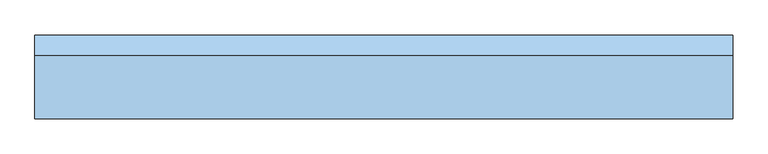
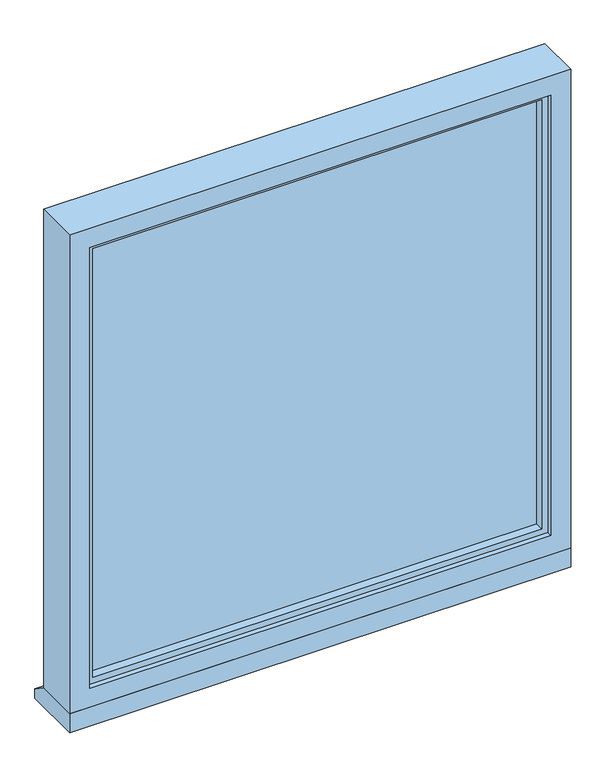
"""IFC4 building model written with IfcOpenShell, lengths in millimetres: window geometry, BIMHealth-Window_BIMHealth_Single-LOD2A-v1 : BIMHealth-Window_BIMHealth_Single-LOD2A-v1."""

from ifc_helpers import new_model, si_unit, frame, origin, place, context, project, spatial, polyline, outline, extrude, source, transform, mapped, element, save


def window_a183550a(model_context):
    return source(origin(), model_context, "Body", "SweptSolid", [
        extrude(outline(polyline([(2060.0, -460.0), (1130.0, -460.0), (1130.0, 460.0), (2060.0, 460.0), (2060.0, -460.0)]), holes=[polyline([(2048.0, -448.0), (2048.0, 448.0), (1142.0, 448.0), (1142.0, -448.0), (2048.0, -448.0)])]), frame((0.0, -35.0, 0.0), z_axis=(0.0, 1.0, 0.0), x_axis=(0.0, 0.0, 1.0)), (0.0, 0.0, 1.0), 18.0),
        extrude(outline(polyline([(2060.0, -460.0), (1130.0, -460.0), (1130.0, 460.0), (2060.0, 460.0), (2060.0, -460.0)]), holes=[polyline([(2048.0, -448.0), (2048.0, 448.0), (1142.0, 448.0), (1142.0, -448.0), (2048.0, -448.0)])]), frame((0.0, 17.0, 0.0), z_axis=(0.0, 1.0, 0.0), x_axis=(0.0, 0.0, 1.0)), (0.0, 0.0, 1.0), 18.0),
        extrude(outline(polyline([(460.0, -17.0), (-460.0, -17.0), (-460.0, -11.0), (460.0, -11.0), (460.0, -17.0)])), frame((0.0, 0.0, 1130.0), z_axis=(0.0, 0.0, 1.0), x_axis=(1.0, 0.0, 0.0)), (0.0, 0.0, 1.0), 930.0),
        extrude(outline(polyline([(-460.0, 17.0), (460.0, 17.0), (460.0, 11.0), (-460.0, 11.0), (-460.0, 17.0)])), frame((0.0, 0.0, 1130.0), z_axis=(0.0, 0.0, 1.0), x_axis=(1.0, 0.0, 0.0)), (0.0, 0.0, 1.0), 930.0),
        extrude(outline(polyline([(2100.0, -500.0), (1090.0, -500.0), (1090.0, 500.0), (2100.0, 500.0), (2100.0, -500.0)]), holes=[polyline([(2060.0, 460.0), (1130.0, 460.0), (1130.0, -460.0), (2060.0, -460.0), (2060.0, 460.0)])]), frame((0.0, -45.0, 0.0), z_axis=(0.0, 1.0, 0.0), x_axis=(0.0, 0.0, 1.0)), (0.0, 0.0, 1.0), 90.0),
        extrude(outline(polyline([(75.0, 1050.0), (-45.0, 1050.0), (-45.0, 1090.0), (45.0, 1090.0), (75.0, 1070.0), (75.0, 1050.0)])), frame((-500.0, 0.0, 0.0), z_axis=(1.0, 0.0, 0.0), x_axis=(0.0, 1.0, 0.0)), (0.0, 0.0, 1.0), 1000.0),
    ])


if __name__ == "__main__":
    model = new_model("IFC4")
    model_context = context("Model", 3, world=origin())
    ifc_project = project(units=[si_unit("LENGTHUNIT", "METRE", prefix="MILLI")], contexts=[model_context])
    site = spatial("IfcSite", under=ifc_project)
    building = spatial("IfcBuilding", under=site)
    placement = place(None, origin())
    window_shape = window_a183550a(model_context)
    element("IfcWindow", 1, ObjectType="BIMHealth-Window_BIMHealth_Single-LOD2A-v1 : BIMHealth-Window_BIMHealth_Single-LOD2A-v1", at=placement, inside=building, context=model_context, shape_type="MappedRepresentation", body=[
        mapped(window_shape, transform((0.0, 0.0, 0.0), x_axis=(1.0, 0.0, 0.0), y_axis=(0.0, 1.0, 0.0), z_axis=(0.0, 0.0, 1.0))),
    ])
    save(model, "model.ifc")
